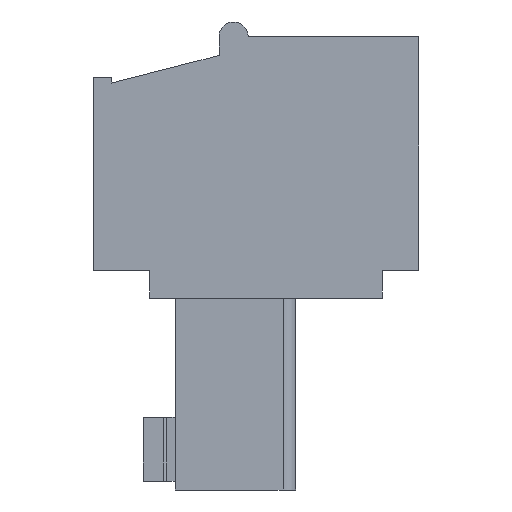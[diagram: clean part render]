
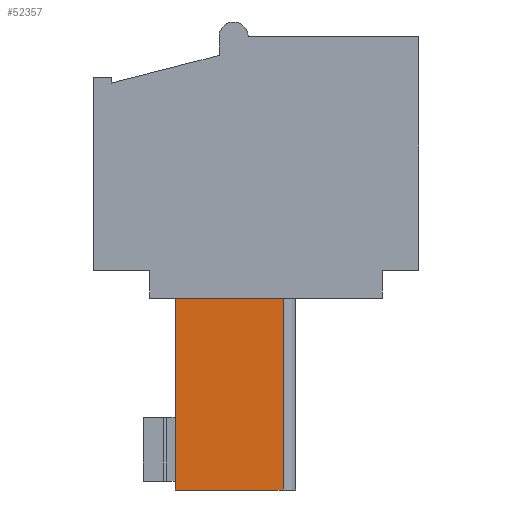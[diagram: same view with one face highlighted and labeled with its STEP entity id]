
A CAD part, left-side view. The second image highlights one B-rep face of the part: STEP entity #52357.
In plain terms, the highlighted planar face has unit normal (-1, 0, 0).
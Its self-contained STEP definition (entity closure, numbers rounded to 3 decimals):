
#329 = PLANE('',#330);
#330 = AXIS2_PLACEMENT_3D('',#331,#332,#333);
#331 = CARTESIAN_POINT('',(0.,-6.37,-9.));
#332 = DIRECTION('',(0.,0.,-1.));
#333 = DIRECTION('',(0.,1.,0.));
#36401 = VERTEX_POINT('',#36402);
#36402 = CARTESIAN_POINT('',(-38.01,-1.7,-9.));
#36417 = CYLINDRICAL_SURFACE('',#36418,0.44);
#36418 = AXIS2_PLACEMENT_3D('',#36419,#36420,#36421);
#36419 = CARTESIAN_POINT('',(-37.57,-1.7,-9.));
#36420 = DIRECTION('',(0.,0.,-1.));
#36421 = DIRECTION('',(1.,0.,0.));
#36429 = EDGE_CURVE('',#36401,#36430,#36432,.T.);
#36430 = VERTEX_POINT('',#36431);
#36431 = CARTESIAN_POINT('',(-38.01,2.01,-9.));
#36432 = SURFACE_CURVE('',#36433,(#36437,#36444),.PCURVE_S1.);
#36433 = LINE('',#36434,#36435);
#36434 = CARTESIAN_POINT('',(-38.01,-1.7,-9.));
#36435 = VECTOR('',#36436,1.);
#36436 = DIRECTION('',(0.,1.,0.));
#36437 = PCURVE('',#329,#36438);
#36438 = DEFINITIONAL_REPRESENTATION('',(#36439),#36443);
#36439 = LINE('',#36440,#36441);
#36440 = CARTESIAN_POINT('',(4.67,-38.01));
#36441 = VECTOR('',#36442,1.);
#36442 = DIRECTION('',(1.,0.));
#36443 = ( GEOMETRIC_REPRESENTATION_CONTEXT(2) 
PARAMETRIC_REPRESENTATION_CONTEXT() REPRESENTATION_CONTEXT('2D SPACE',''
  ) );
#36444 = PCURVE('',#36445,#36450);
#36445 = PLANE('',#36446);
#36446 = AXIS2_PLACEMENT_3D('',#36447,#36448,#36449);
#36447 = CARTESIAN_POINT('',(-38.01,-1.7,-9.));
#36448 = DIRECTION('',(-1.,0.,0.));
#36449 = DIRECTION('',(0.,1.,0.));
#36450 = DEFINITIONAL_REPRESENTATION('',(#36451),#36455);
#36451 = LINE('',#36452,#36453);
#36452 = CARTESIAN_POINT('',(0.,0.));
#36453 = VECTOR('',#36454,1.);
#36454 = DIRECTION('',(1.,0.));
#36455 = ( GEOMETRIC_REPRESENTATION_CONTEXT(2) 
PARAMETRIC_REPRESENTATION_CONTEXT() REPRESENTATION_CONTEXT('2D SPACE',''
  ) );
#36471 = PLANE('',#36472);
#36472 = AXIS2_PLACEMENT_3D('',#36473,#36474,#36475);
#36473 = CARTESIAN_POINT('',(-38.01,2.01,-9.));
#36474 = DIRECTION('',(0.,1.,0.));
#36475 = DIRECTION('',(1.,0.,0.));
#51754 = PLANE('',#51755);
#51755 = AXIS2_PLACEMENT_3D('',#51756,#51757,#51758);
#51756 = CARTESIAN_POINT('',(-36.59,0.,-15.6));
#51757 = DIRECTION('',(0.,0.,-1.));
#51758 = DIRECTION('',(1.,0.,0.));
#51822 = VERTEX_POINT('',#51823);
#51823 = CARTESIAN_POINT('',(-38.01,-1.7,-15.6));
#51874 = VERTEX_POINT('',#51875);
#51875 = CARTESIAN_POINT('',(-38.01,2.01,-15.6));
#51896 = EDGE_CURVE('',#51874,#51822,#51897,.T.);
#51897 = SURFACE_CURVE('',#51898,(#51902,#51909),.PCURVE_S1.);
#51898 = LINE('',#51899,#51900);
#51899 = CARTESIAN_POINT('',(-38.01,2.01,-15.6));
#51900 = VECTOR('',#51901,1.);
#51901 = DIRECTION('',(0.,-1.,0.));
#51902 = PCURVE('',#51754,#51903);
#51903 = DEFINITIONAL_REPRESENTATION('',(#51904),#51908);
#51904 = LINE('',#51905,#51906);
#51905 = CARTESIAN_POINT('',(-1.42,-2.01));
#51906 = VECTOR('',#51907,1.);
#51907 = DIRECTION('',(0.,1.));
#51908 = ( GEOMETRIC_REPRESENTATION_CONTEXT(2) 
PARAMETRIC_REPRESENTATION_CONTEXT() REPRESENTATION_CONTEXT('2D SPACE',''
  ) );
#51909 = PCURVE('',#36445,#51910);
#51910 = DEFINITIONAL_REPRESENTATION('',(#51911),#51915);
#51911 = LINE('',#51912,#51913);
#51912 = CARTESIAN_POINT('',(3.71,6.6));
#51913 = VECTOR('',#51914,1.);
#51914 = DIRECTION('',(-1.,0.));
#51915 = ( GEOMETRIC_REPRESENTATION_CONTEXT(2) 
PARAMETRIC_REPRESENTATION_CONTEXT() REPRESENTATION_CONTEXT('2D SPACE',''
  ) );
#52337 = EDGE_CURVE('',#36401,#51822,#52338,.T.);
#52338 = SURFACE_CURVE('',#52339,(#52343,#52350),.PCURVE_S1.);
#52339 = LINE('',#52340,#52341);
#52340 = CARTESIAN_POINT('',(-38.01,-1.7,-9.));
#52341 = VECTOR('',#52342,1.);
#52342 = DIRECTION('',(0.,0.,-1.));
#52343 = PCURVE('',#36417,#52344);
#52344 = DEFINITIONAL_REPRESENTATION('',(#52345),#52349);
#52345 = LINE('',#52346,#52347);
#52346 = CARTESIAN_POINT('',(3.142,0.));
#52347 = VECTOR('',#52348,1.);
#52348 = DIRECTION('',(0.,1.));
#52349 = ( GEOMETRIC_REPRESENTATION_CONTEXT(2) 
PARAMETRIC_REPRESENTATION_CONTEXT() REPRESENTATION_CONTEXT('2D SPACE',''
  ) );
#52350 = PCURVE('',#36445,#52351);
#52351 = DEFINITIONAL_REPRESENTATION('',(#52352),#52356);
#52352 = LINE('',#52353,#52354);
#52353 = CARTESIAN_POINT('',(0.,0.));
#52354 = VECTOR('',#52355,1.);
#52355 = DIRECTION('',(0.,1.));
#52356 = ( GEOMETRIC_REPRESENTATION_CONTEXT(2) 
PARAMETRIC_REPRESENTATION_CONTEXT() REPRESENTATION_CONTEXT('2D SPACE',''
  ) );
#52357 = ADVANCED_FACE('',(#52358),#36445,.T.);
#52358 = FACE_BOUND('',#52359,.F.);
#52359 = EDGE_LOOP('',(#52360,#52361,#52362,#52383));
#52360 = ORIENTED_EDGE('',*,*,#52337,.T.);
#52361 = ORIENTED_EDGE('',*,*,#51896,.F.);
#52362 = ORIENTED_EDGE('',*,*,#52363,.T.);
#52363 = EDGE_CURVE('',#51874,#36430,#52364,.T.);
#52364 = SURFACE_CURVE('',#52365,(#52369,#52376),.PCURVE_S1.);
#52365 = LINE('',#52366,#52367);
#52366 = CARTESIAN_POINT('',(-38.01,2.01,-15.6));
#52367 = VECTOR('',#52368,1.);
#52368 = DIRECTION('',(0.,0.,1.));
#52369 = PCURVE('',#36445,#52370);
#52370 = DEFINITIONAL_REPRESENTATION('',(#52371),#52375);
#52371 = LINE('',#52372,#52373);
#52372 = CARTESIAN_POINT('',(3.71,6.6));
#52373 = VECTOR('',#52374,1.);
#52374 = DIRECTION('',(0.,-1.));
#52375 = ( GEOMETRIC_REPRESENTATION_CONTEXT(2) 
PARAMETRIC_REPRESENTATION_CONTEXT() REPRESENTATION_CONTEXT('2D SPACE',''
  ) );
#52376 = PCURVE('',#36471,#52377);
#52377 = DEFINITIONAL_REPRESENTATION('',(#52378),#52382);
#52378 = LINE('',#52379,#52380);
#52379 = CARTESIAN_POINT('',(0.,6.6));
#52380 = VECTOR('',#52381,1.);
#52381 = DIRECTION('',(0.,-1.));
#52382 = ( GEOMETRIC_REPRESENTATION_CONTEXT(2) 
PARAMETRIC_REPRESENTATION_CONTEXT() REPRESENTATION_CONTEXT('2D SPACE',''
  ) );
#52383 = ORIENTED_EDGE('',*,*,#36429,.F.);
